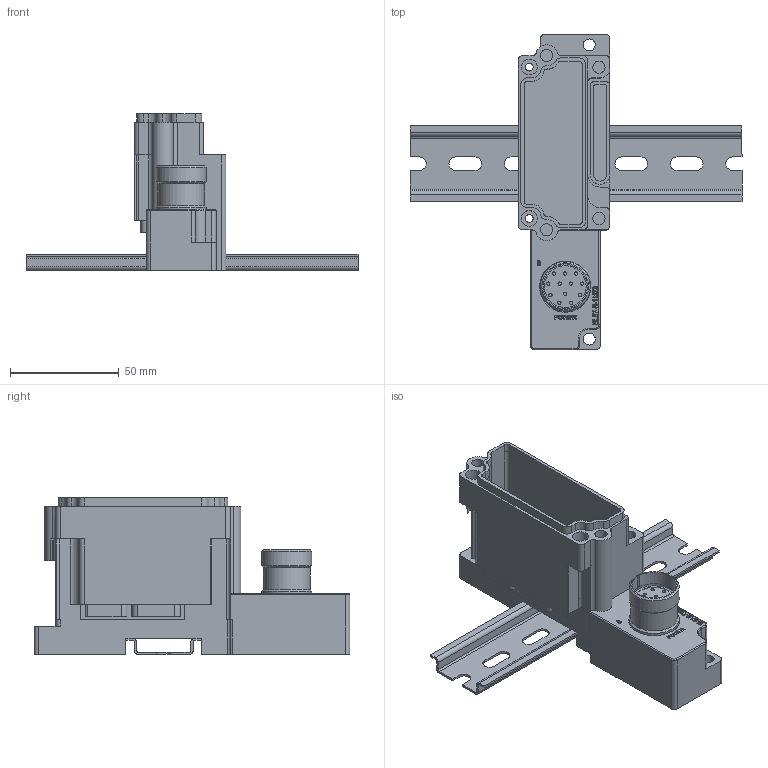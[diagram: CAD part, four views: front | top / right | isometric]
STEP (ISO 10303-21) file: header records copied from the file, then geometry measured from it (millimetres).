
FILE_DESCRIPTION((''),'2;1');
FILE_NAME('C:\TurckZip\BL67-B-1M23.stp','2007-11-13T14:57:34',('IKOROL'),(''),'Autodesk Inventor 2008','Autodesk Inventor 2008','');
FILE_SCHEMA(('AUTOMOTIVE_DESIGN { 1 2 10303 214 0 1 1 1 }'));
Length unit declared in the file: millimetre
Products named in the file (1): Part9
Bounding box: 152.4 x 145 x 72 mm (x, y, z)
Volume: 153131.3 mm3; surface area: 62769.9 mm2
Topology: 1 solids, 1 shells, 509 faces, 1374 edges, 908 vertices
Faces by surface type: plane 260, cylinder 144, bspline 97, torus 4, cone 4
Full cylindrical faces by diameter (mm): 1.524 x12, 3.6 x2, 5.5 x2, 5.6 x4, 7.3 x2, 19.2 x1, 21.357 x1, 21.4 x1, 23 x3, 23.5 x2
Entity records: 17431 total; most frequent: CARTESIAN_POINT 4543, ORIENTED_EDGE 2672, DIRECTION 2258, EDGE_CURVE 1336, VERTEX_POINT 904, VECTOR 850, LINE 850, AXIS2_PLACEMENT_3D 704
